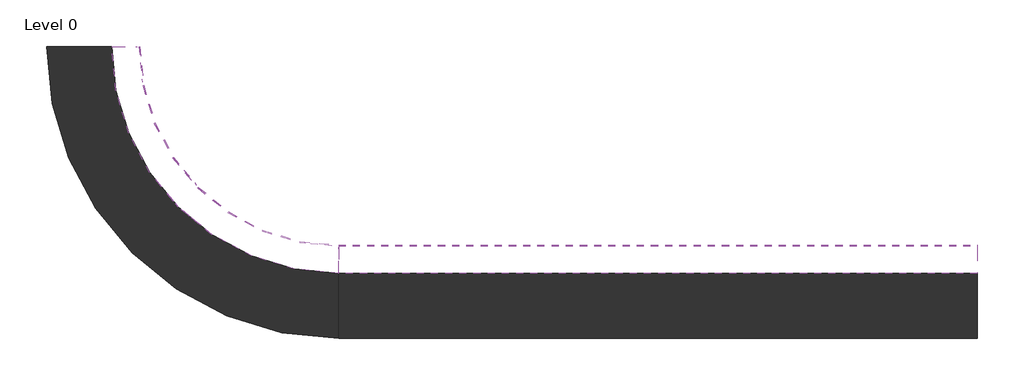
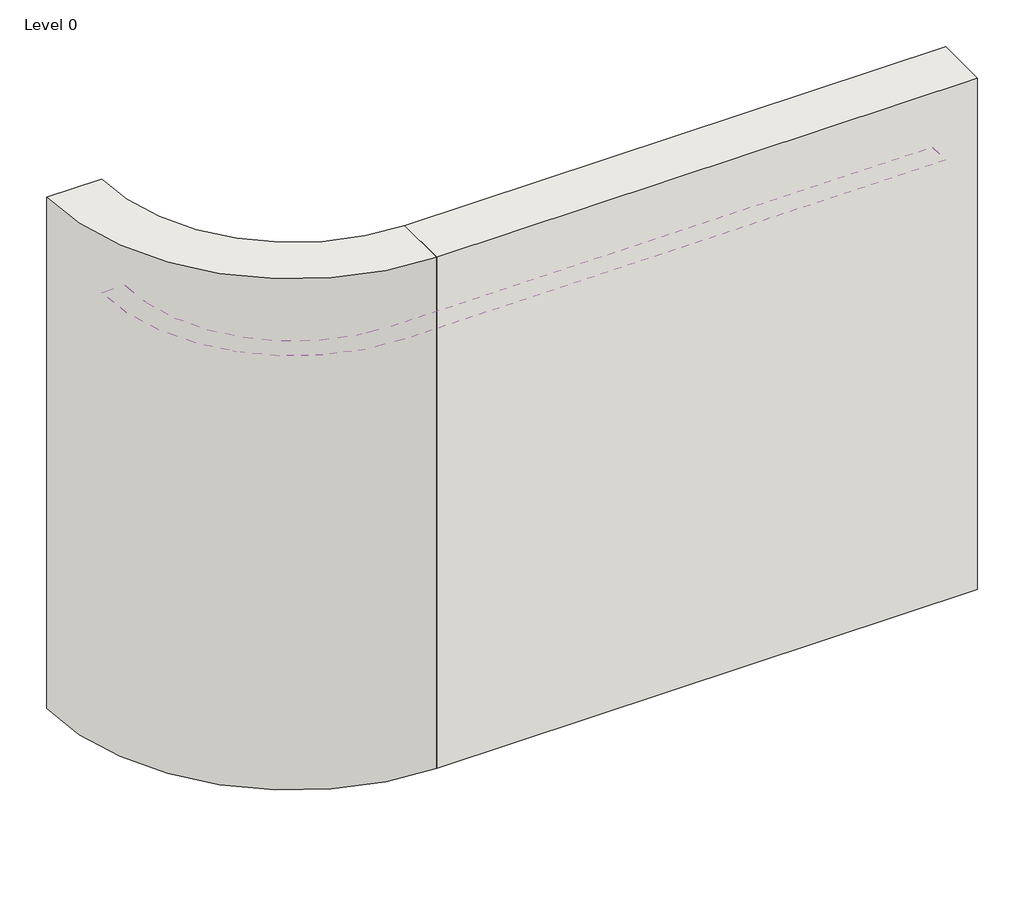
# One storey: 2 light fixtures, 2 walls, 1 covering.
"""IFC4 building model written with IfcOpenShell, lengths in millimetres."""

from ifc_helpers import new_model, si_unit, point, frame, frame_2d, origin, origin_with_axes, place, context, project, spatial, polyline, circle_curve, trimmed, segment, composite_curve, outline, extrude, transform, mapped, element, save
from components import light_fixture_e91f5ca2, light_fixture_c377eed7

model = new_model("IFC4")

# Units and contexts
model_context = context("Model", 3, world=origin())
ifc_project = project(units=[si_unit("LENGTHUNIT", "METRE", prefix="MILLI")], contexts=[model_context])

# Site, building, storey
site = spatial("IfcSite", under=ifc_project)
building = spatial("IfcBuilding", under=site)
storey = spatial("IfcBuildingStorey", under=building, Name="Level 0", Elevation=0.0)

# Covering
placement = place(None, origin())
element("IfcCovering", 1, ObjectType="Plain", at=placement, inside=storey, context=model_context, shape_type="SweptSolid", body=[
    extrude(outline(composite_curve([segment(polyline([(3197.4767276, -197.0596286), (454.2767276, -197.0596286)]), True, "CONTINUOUS"), segment(trimmed(circle_curve(frame_2d((454.2767276, 777.6653714)), 974.725), [point((454.2767276, -197.0596286))], [point((-520.4482724, 777.6653714))], False, "CARTESIAN"), True, "CONTINUOUS"), segment(polyline([(-520.4482724, 777.6653714), (-403.7670224, 777.6653714)]), True, "CONTINUOUS"), segment(trimmed(circle_curve(frame_2d((454.2767276, 777.6653714)), 858.04375), [point((-403.7670224, 777.6653714))], [point((454.2767276, -80.3783786))], True, "CARTESIAN"), True, "CONTINUOUS"), segment(polyline([(454.2767276, -80.3783786), (3197.4767276, -80.3783786), (3197.4767276, -197.0596286)]), True, "CONTINUOUS")], self_intersect=False)), frame((0.0, 0.0, 2133.6), z_axis=(0.0, 0.0, 1.0), x_axis=(1.0, 0.0, 0.0)), (0.0, 0.0, 1.0), 57.0),
])

# Light fixtures
light_fixture_shape = light_fixture_e91f5ca2(model_context)
element("IfcLightFixture", 2, ObjectType="Lighting-Cove-Lumenwerx-Evoq-Ramp-FC-Arc_Segment-Ceiling : EVOQCURPAT-FC-ARC", at=placement, inside=storey, context=model_context, shape_type="MappedRepresentation", body=[
    mapped(light_fixture_shape, transform((-2.9232724, 320.4653714, 2190.6), x_axis=(-0.7071067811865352, 0.7071067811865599, 0.0), y_axis=(-0.7071067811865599, -0.7071067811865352, 0.0), z_axis=(0.0, 0.0, 1.0))),
])
light_fixture_2_shape = light_fixture_c377eed7(model_context)
element("IfcLightFixture", 3, ObjectType="Lighting-Cove-Lumenwerx-Evoq-Ramp-FC-Straight_Segment-Ceiling : EVOQRMP-FC-Straight", at=placement, inside=storey, context=model_context, shape_type="MappedRepresentation", body=[
    mapped(light_fixture_2_shape, transform((1825.8767276, -136.7346286, 2190.6), x_axis=(-1.0, 0.0, 0.0), y_axis=(0.0, -1.0, 0.0), z_axis=(0.0, 0.0, 1.0))),
])

# Walls
element("IfcWall", 4, ObjectType="Wall", at=placement, inside=storey, context=model_context, shape_type="SweptSolid", body=[
    extrude(outline(polyline([(454.2767276, -197.0596286), (3197.4767276, -197.0596286), (3197.4767276, -476.4596286), (454.2767276, -476.4596286), (454.2767276, -197.0596286)])), origin_with_axes(), (0.0, 0.0, 1.0), 2743.2),
])
element("IfcWall", 5, ObjectType="Wall", at=placement, inside=storey, context=model_context, shape_type="SweptSolid", body=[
    extrude(outline(composite_curve([segment(polyline([(-799.8482724, 777.6653714), (-520.4482724, 777.6653714)]), True, "CONTINUOUS"), segment(trimmed(circle_curve(frame_2d((454.2767276, 777.6653714)), 974.725), [point((-520.4482724, 777.6653714))], [point((454.2767276, -197.0596286))], True, "CARTESIAN"), True, "CONTINUOUS"), segment(polyline([(454.2767276, -197.0596286), (454.2767276, -476.4596286)]), True, "CONTINUOUS"), segment(trimmed(circle_curve(frame_2d((454.2767276, 777.6653714)), 1254.125), [point((454.2767276, -476.4596286))], [point((-799.8482724, 777.6653714))], False, "CARTESIAN"), True, "CONTINUOUS")], self_intersect=False)), origin_with_axes(), (0.0, 0.0, 1.0), 2743.2),
])

save(model, "model.ifc")
